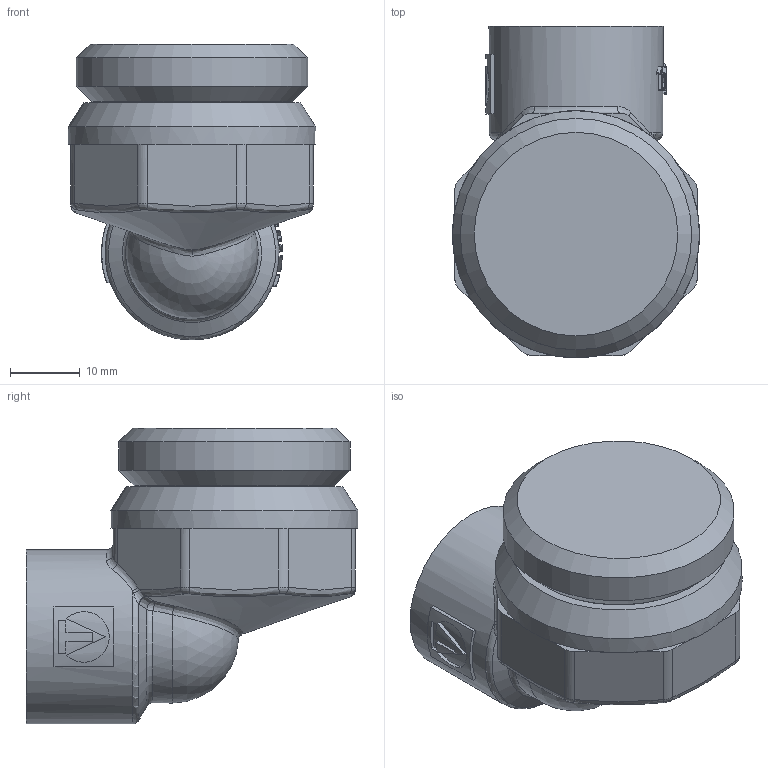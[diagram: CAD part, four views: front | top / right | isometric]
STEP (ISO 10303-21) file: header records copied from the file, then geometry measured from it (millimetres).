
FILE_DESCRIPTION(('STEP AP203'), '1');
FILE_NAME('VTc.531.N.0604', '2024-09-06T11:20:18', ('User'), ('Vesta'), 'C3D Converter', 'C3D Toolkit', '');
FILE_SCHEMA(('CONFIG_CONTROL_DESIGN'));
Length unit declared in the file: millimetre
Products named in the file (1): ВР.302635.120.000 СБ
Bounding box: 35.5 x 47.65 x 42.5 mm (x, y, z)
Volume: 30165.5 mm3; surface area: 7350.7 mm2
Topology: 1 solids, 1 shells, 204 faces, 525 edges, 331 vertices
Faces by surface type: plane 74, extrusion 66, bspline 31, cylinder 22, cone 6, torus 4, sphere 1
Full cylindrical faces by diameter (mm): 18.632 x1, 25 x1, 33.249 x1, 35.5 x1
Entity records: 10691 total; most frequent: CARTESIAN_POINT 6382, ORIENTED_EDGE 1028, DIRECTION 585, EDGE_CURVE 514, VERTEX_POINT 361, B_SPLINE_CURVE_WITH_KNOTS 282, VECTOR 239, EDGE_LOOP 223
